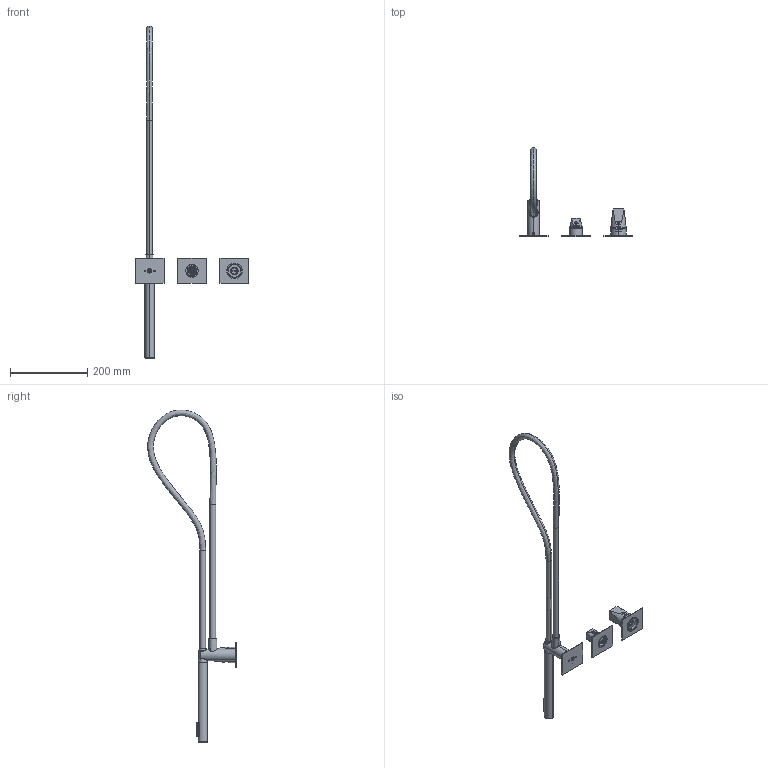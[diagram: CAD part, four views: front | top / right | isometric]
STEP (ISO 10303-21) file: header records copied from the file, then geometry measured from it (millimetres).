
FILE_DESCRIPTION((''),'2;1');
FILE_NAME('49569V221_SW0001','2024-10-09T09:22:15',('volponeff'),(''),'CREO PARAMETRIC BY PTC INC, 2022014','CREO PARAMETRIC BY PTC INC, 2022014','');
FILE_SCHEMA(('CONFIG_CONTROL_DESIGN'));
Products named in the file (1): 49569V221_SW0001
Bounding box: 295 x 229.77 x 859.83 mm (x, y, z)
Volume: 499920.4 mm3; surface area: 171455.4 mm2
Topology: 8 solids, 8 shells, 1349 faces, 3366 edges, 2144 vertices
Faces by surface type: cylinder 567, plane 416, torus 206, cone 106, bspline 50, sphere 4
Entity records: 75183 total; most frequent: CARTESIAN_POINT 43157, ORIENTED_EDGE 6716, DIRECTION 6644, EDGE_CURVE 3358, AXIS2_PLACEMENT_3D 2660, VERTEX_POINT 2144, EDGE_LOOP 1534, CIRCLE 1361
